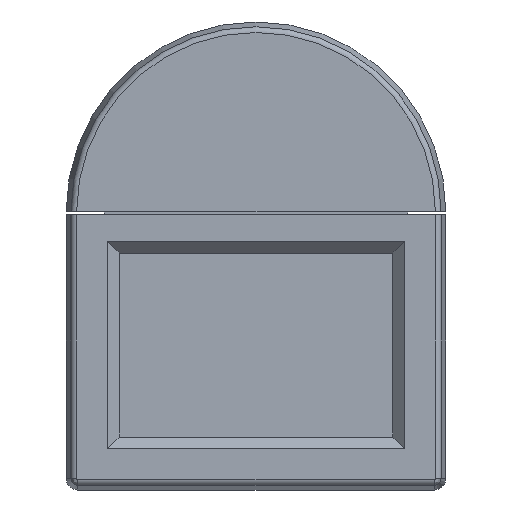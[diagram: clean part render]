
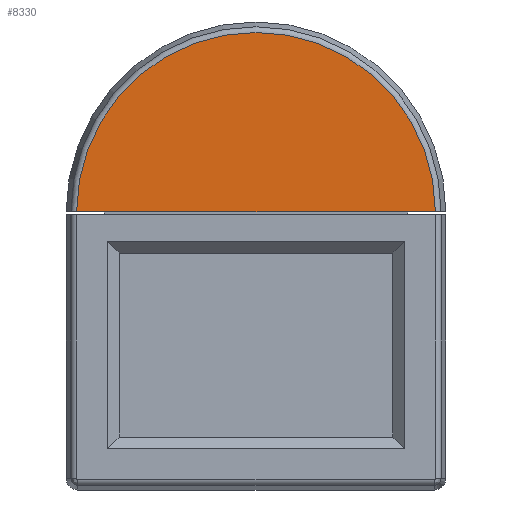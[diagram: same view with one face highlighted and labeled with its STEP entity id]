
A CAD part, front view. The second image highlights one B-rep face of the part: STEP entity #8330.
In plain terms, the highlighted planar face has unit normal (0, -1, 0).
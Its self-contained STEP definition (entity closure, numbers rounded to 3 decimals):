
#631=LINE('',#12676,#1616);
#1616=VECTOR('',#10259,10.);
#2377=PLANE('',#8948);
#2809=FACE_OUTER_BOUND('',#3287,.T.);
#3287=EDGE_LOOP('',(#6984,#6985));
#3597=CIRCLE('',#8879,30.469);
#4004=VERTEX_POINT('',#12668);
#4006=VERTEX_POINT('',#12672);
#4982=EDGE_CURVE('',#4004,#4006,#3597,.T.);
#4983=EDGE_CURVE('',#4006,#4004,#631,.T.);
#6984=ORIENTED_EDGE('',*,*,#4982,.T.);
#6985=ORIENTED_EDGE('',*,*,#4983,.T.);
#8330=ADVANCED_FACE('',(#2809),#2377,.T.);
#8879=AXIS2_PLACEMENT_3D('',#12674,#10255,#10256);
#8948=AXIS2_PLACEMENT_3D('',#12974,#10510,#10511);
#10255=DIRECTION('center_axis',(0.,-1.,0.));
#10256=DIRECTION('ref_axis',(0.,0.,
1.));
#10259=DIRECTION('',(1.,0.,0.));
#10510=DIRECTION('center_axis',(0.,-1.,0.));
#10511=DIRECTION('ref_axis',(-1.,0.,0.));
#12668=CARTESIAN_POINT('',(-69.531,-84.,0.));
#12672=CARTESIAN_POINT('',(-130.469,-84.,0.));
#12674=CARTESIAN_POINT('Origin',(-100.,-84.,0.));
#12676=CARTESIAN_POINT('',(-132.25,-84.,0.));
#12974=CARTESIAN_POINT('Origin',(-100.,-84.,-7.5));
